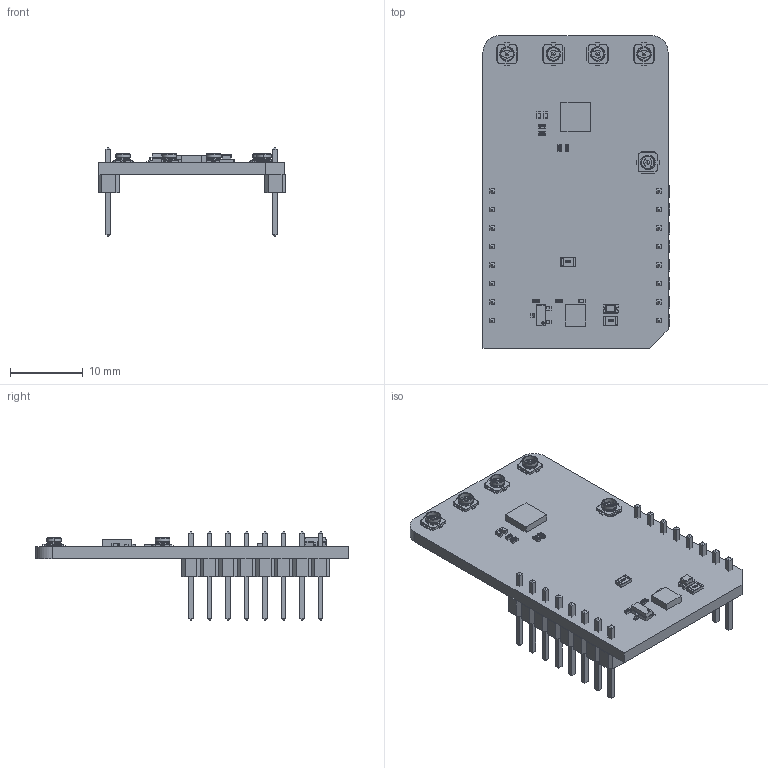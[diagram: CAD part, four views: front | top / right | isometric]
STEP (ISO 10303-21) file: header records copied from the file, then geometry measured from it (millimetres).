
FILE_DESCRIPTION(('Open CASCADE Model'),'2;1');
FILE_NAME('Open CASCADE Shape Model','2025-12-09T10:59:27',('Author'),( 'Open CASCADE'),'Open CASCADE STEP processor 7.5','Open CASCADE 7.5' ,'Unknown');
FILE_SCHEMA(('AUTOMOTIVE_DESIGN { 1 0 10303 214 1 1 1 1 }'));
Length unit declared in the file: millimetre
Products named in the file (40): PCB; Board; Open CASCADE STEP translator 7.5 1.1.1; U2; 6739865312; Extruded; R7; User Library-R_0402; R6; R5; R4; CN5; U.FL-R-SMT-1; CN4; CN3; CN2; CN1; C3; User Library-SMD CAPACITOR0402; C2; U1; 6739505008; Q1; SOT23-3; R3; C1; R2; LD1; led_0805_green; R1; User Library-R_0805; MBD1; Header 1x8; Free-Models; 1240637040; User_Library-PinHeaderX5-1_PinHeaderX5_Body_1; User_Library-PinHeaderX5-1_PinHeaderX5_Pins_1; JP1
Assembly tree (53 placements, depth 7):
  PCB
    Board
      Open CASCADE STEP translator 7.5 1.1.1
    U2
      6739865312
        Extruded
    R7
      User Library-R_0402
    R6
      User Library-R_0402
    R5
      User Library-R_0402
    R4
      User Library-R_0402
    CN5
      U.FL-R-SMT-1
    CN4
      U.FL-R-SMT-1
    CN3
      U.FL-R-SMT-1
    CN2
      U.FL-R-SMT-1
    CN1
      U.FL-R-SMT-1
    C3
      User Library-SMD CAPACITOR0402
    C2
      User Library-SMD CAPACITOR0402
    U1
      6739505008
        Extruded
    Q1
      SOT23-3
    R3
      User Library-R_0402
    C1
      User Library-SMD CAPACITOR0402
    R2
      User Library-R_0402
    LD1
      led_0805_green
    R1
      User Library-R_0805
    MBD1
      Header 1x8  x2
        PCB
          Free-Models
            1240637040  x2
              User_Library-PinHeaderX5-1_PinHeaderX5_Body_1
              User_Library-PinHeaderX5-1_PinHeaderX5_Pins_1
    JP1
      User Library-R_0805
Bounding box: 25.78 x 42.93 x 12.19 mm (x, y, z)
Volume: 2307 mm3; surface area: 4020.4 mm2
Topology: 53 solids, 53 shells, 1730 faces, 4335 edges, 2755 vertices
Faces by surface type: plane 1257, bspline 240, cylinder 153, cone 40, sphere 30, revolution 10
Entity records: 23243 total; most frequent: CARTESIAN_POINT 7141, ORIENTED_EDGE 2620, DIRECTION 2339, EDGE_CURVE 1310, LINE 1039, VECTOR 1039, VERTEX_POINT 837, AXIS2_PLACEMENT_3D 649
